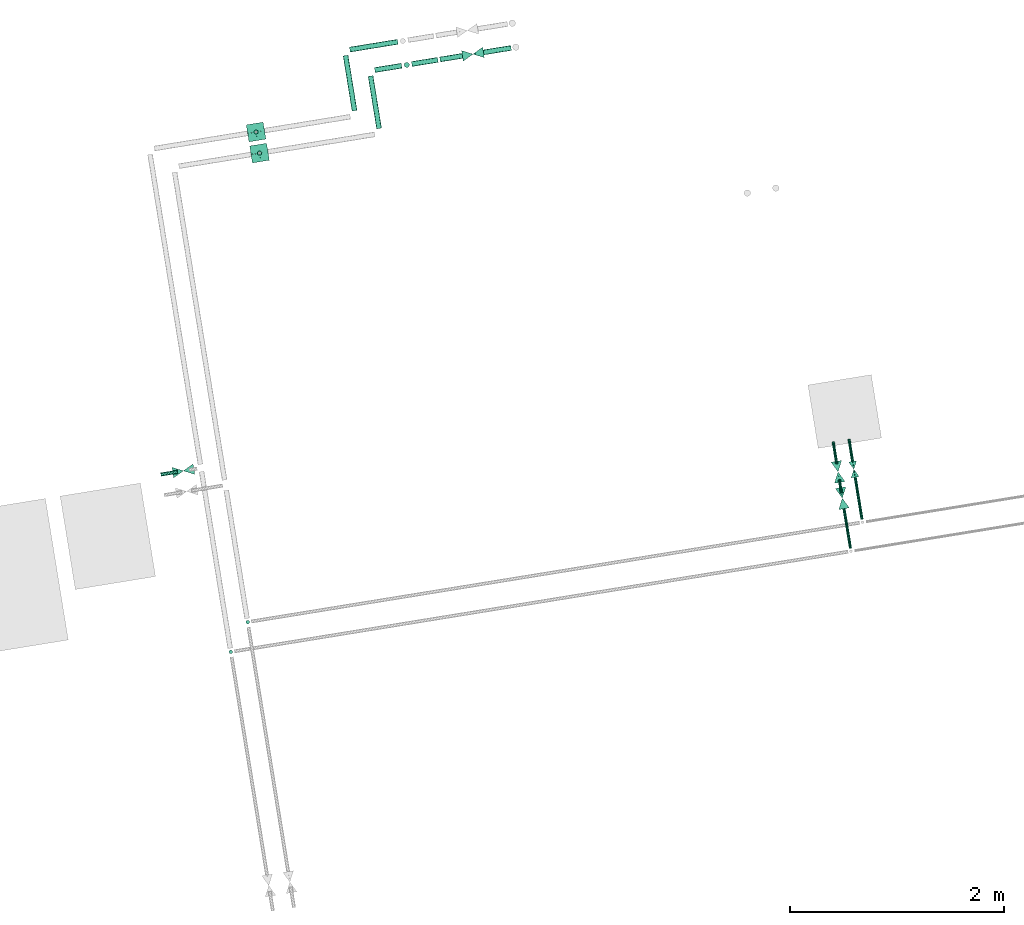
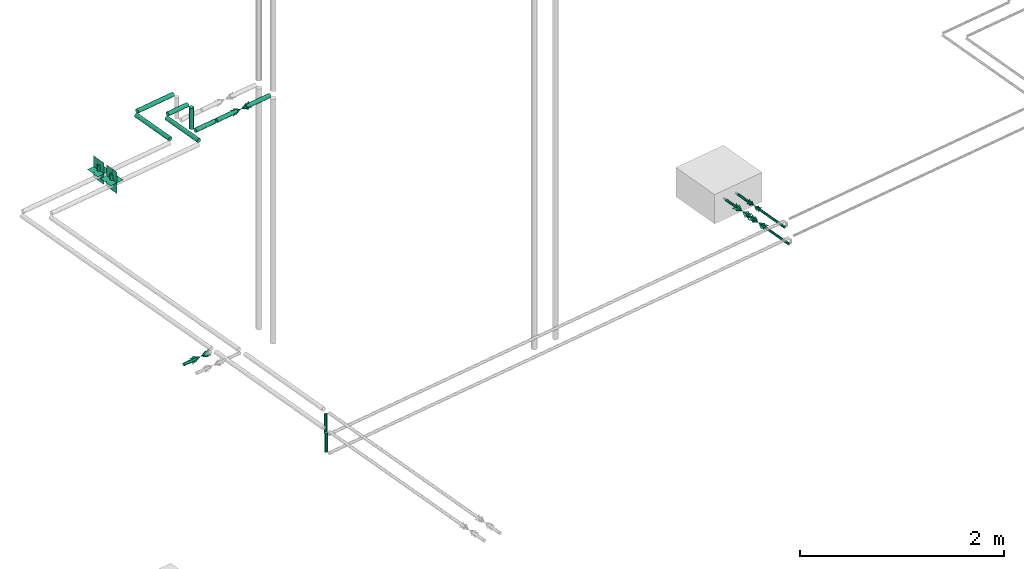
# One storey, part 2 of 8: 16 flow segments, 7 flow controllers.
"""IFC2X3 building model written with IfcOpenShell, lengths in millimetres."""

from ifc_helpers import new_model, entity, si_unit, converted_unit, derived_unit, direction, frame, frame_2d, origin, origin_with_axes, origin_2d_with_axis, place, context, subcontext, project, spatial, polyline, circle, outline, extrude, source, transform, mapped, material, material_list, type_object, element, save


model = new_model("IFC2X3")

# Units and contexts
model_context = context("Model", 3, precision=0.01, world=origin(), true_north=direction((6.12323399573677e-17, 1.0)))
plan_context = context("Plan", 3, precision=1e-05, world=origin_with_axes())
body_context = subcontext(model_context, "Body", "Model", "MODEL_VIEW")
ifc_project = project(units=[converted_unit("PLANEANGLEUNIT", "DEGREE", entity("IfcPositiveLengthMeasure", 0.0174532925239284), si_unit("PLANEANGLEUNIT", "RADIAN"), dimensions=[0, 0, 0, 0, 0, 0, 0]), si_unit("AREAUNIT", "SQUARE_METRE"), si_unit("LENGTHUNIT", "METRE", prefix="MILLI"), si_unit("MASSUNIT", "GRAM", prefix="KILO"), si_unit("POWERUNIT", "WATT"), si_unit("PRESSUREUNIT", "PASCAL", prefix="KILO"), si_unit("FORCEUNIT", "NEWTON", prefix="KILO"), si_unit("ELECTRICVOLTAGEUNIT", "VOLT"), si_unit("ELECTRICCURRENTUNIT", "AMPERE"), si_unit("THERMODYNAMICTEMPERATUREUNIT", "DEGREE_CELSIUS"), si_unit("TIMEUNIT", "SECOND"), si_unit("VOLUMEUNIT", "CUBIC_METRE"), derived_unit("LINEARVELOCITYUNIT", [(si_unit("LENGTHUNIT", "METRE"), 1), (si_unit("TIMEUNIT", "SECOND"), -1)]), derived_unit("VOLUMETRICFLOWRATEUNIT", [(si_unit("VOLUMEUNIT", "CUBIC_METRE"), 1), (si_unit("TIMEUNIT", "SECOND"), -1)]), derived_unit("THERMALTRANSMITTANCEUNIT", [(si_unit("POWERUNIT", "WATT"), 1), (si_unit("THERMODYNAMICTEMPERATUREUNIT", "KELVIN"), -1), (si_unit("AREAUNIT", "SQUARE_METRE"), -1)]), derived_unit("SOUNDPRESSUREUNIT", [(si_unit("PRESSUREUNIT", "PASCAL"), 1)])], contexts=[model_context, plan_context])

# Site, building, storey
site_placement = place(None, frame((-0.00071070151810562, 0.00438415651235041, 0.0), z_axis=(0.0, 0.0, 1.0), x_axis=(-0.160236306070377, 0.987078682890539, 0.0)))
site = spatial("IfcSite", under=ifc_project, at=site_placement, Name="Default", CompositionType="ELEMENT")
building_placement = place(site_placement, origin_with_axes())
building = spatial("IfcBuilding", under=site, at=building_placement, CompositionType="ELEMENT")
storey_placement = place(building_placement, frame((0.0, 0.0, 50999.9999999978), z_axis=(0.0, 0.0, 1.0), x_axis=(1.0, 0.0, 0.0)))
storey = spatial("IfcBuildingStorey", under=building, at=storey_placement, Name="Nivå D", CompositionType="ELEMENT", Elevation=50999.9999999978)

# Flow controllers
ifc_material_1 = material(Name="2d_hide")
valve_type_1 = type_object("IfcValveType", Name="STENGEVENTIL - MANUELL--SM06T:STENGEVENTIL - MANUELL-40-SM006T", PredefinedType="NOTDEFINED", material=ifc_material_1)
shared_shape_1 = source(origin(), body_context, "Body", "SweptSolid", [
    extrude(outline(polyline([(-52.1749194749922, -29.8142396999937), (59.6284794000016, -29.8142396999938), (-7.45355992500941, 59.6284793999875), (-52.1749194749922, -29.8142396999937)])), frame((66.6666666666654, 0.0, -0.1), z_axis=(0.0, 0.0, 1.0), x_axis=(-0.894427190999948, -0.447213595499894, 0.0)), (0.0, 0.0, 1.0), 0.2),
    extrude(outline(polyline([(-50.0, -33.3333333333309), (50.0, -33.3333333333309), (0.0, 66.6666666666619), (-50.0, -33.3333333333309)])), frame((-66.6666666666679, 0.0, -0.1), z_axis=(0.0, 0.0, 1.0), x_axis=(0.0, -1.0, 0.0)), (0.0, 0.0, 1.0), 0.2),
    extrude(outline(polyline([(-52.1749194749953, -29.8142396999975), (59.628479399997, -29.8142396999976), (-7.45355992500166, 59.6284793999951), (-52.1749194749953, -29.8142396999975)])), frame((66.6666666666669, -0.1, 0.0), z_axis=(0.0, 1.0, 0.0), x_axis=(-0.894427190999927, 0.0, 0.447213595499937)), (0.0, 0.0, 1.0), 0.2),
    extrude(outline(polyline([(-50.0, -33.3333333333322), (50.0, -33.3333333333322), (0.0, 66.6666666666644), (-50.0, -33.3333333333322)])), frame((-66.6666666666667, -0.1, 0.0), z_axis=(0.0, 1.0, 0.0), x_axis=(0.0, 0.0, 1.0)), (0.0, 0.0, 1.0), 0.2),
])
flow_controller_1_placement = place(storey_placement, frame((777524.586788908, -594269.740529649, 2949.99466916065), z_axis=(-5.97430540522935e-30, -7.55073187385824e-05, -0.999999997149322), x_axis=(5.55111512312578e-17, 0.999999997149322, -7.55073187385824e-05)))
element("IfcFlowController", 1, at=flow_controller_1_placement, inside=storey, type_object=valve_type_1, material=ifc_material_1, Name="STENGEVENTIL - MANUELL--SM06T:STENGEVENTIL - MANUELL-40-SM006T", ObjectType="STENGEVENTIL - MANUELL--SM06T:STENGEVENTIL - MANUELL-40-SM006T", context=body_context, shape_type="MappedRepresentation", body=[
    mapped(shared_shape_1, transform((0.0, 0.0, 0.0), scale=1.0)),
])
ifc_material_2 = material(Name="<Unnamed>")
valve_type_2 = type_object("IfcValveType", Name="STENGEVENTIL - MANUELL-  1-SM01T:STENGEVENTIL - MANUELL-20-SM001T", PredefinedType="NOTDEFINED", material=ifc_material_2)
shared_shape_2 = source(origin(), body_context, "Body", "SweptSolid", [
    extrude(outline(polyline([(-39.1311896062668, -22.3606797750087), (44.7213595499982, -22.3606797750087), (-5.59016994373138, 44.7213595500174), (-39.1311896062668, -22.3606797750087)])), frame((50.0, -1.07349053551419, 0.0), z_axis=(0.0, 1.0, 0.0), x_axis=(-0.894427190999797, 0.0, 0.447213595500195)), (0.0, 0.0, 1.0), 2.13989335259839),
    extrude(outline(polyline([(-37.5000000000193, -25.0), (37.5000000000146, -25.0), (0.0, 50.0), (-37.5000000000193, -25.0)])), frame((-50.0, -1.07349053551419, 0.0), z_axis=(0.0, 1.0, 0.0), x_axis=(0.0, 0.0, 1.0)), (0.0, 0.0, 1.0), 2.13989335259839),
    extrude(outline(polyline([(-37.5000000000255, -25.0), (37.5000000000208, -25.0), (0.0, 50.0), (-37.5000000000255, -25.0)])), frame((50.0, 0.0, -1.0664028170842), z_axis=(0.0, 0.0, 1.0), x_axis=(0.0, 1.0, 0.0)), (0.0, 0.0, 1.0), 2.13989335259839),
    extrude(outline(polyline([(-39.1311896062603, -22.360679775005), (44.7213595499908, -22.360679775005), (-5.59016994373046, 44.72135955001), (-39.1311896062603, -22.360679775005)])), frame((-50.0, 0.0, -1.0664028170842), z_axis=(0.0, 0.0, 1.0), x_axis=(0.894427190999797, 0.447213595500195, 0.0)), (0.0, 0.0, 1.0), 2.13989335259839),
])
flow_controller_2_placement = place(storey_placement, frame((773122.357566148, -597163.047041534, 2900.0), z_axis=(0.0, 0.0, -1.0), x_axis=(-1.0, 0.0, 0.0)))
element("IfcFlowController", 2, at=flow_controller_2_placement, inside=storey, type_object=valve_type_2, material=ifc_material_2, Name="STENGEVENTIL - MANUELL-  1-SM01T:STENGEVENTIL - MANUELL-20-SM001T", ObjectType="STENGEVENTIL - MANUELL-  1-SM01T:STENGEVENTIL - MANUELL-20-SM001T", context=body_context, shape_type="MappedRepresentation", body=[
    mapped(shared_shape_2, transform((0.0, 0.0, 0.0), scale=1.0)),
])
valve_type_3 = type_object("IfcValveType", Name="REGULERINGSVENTIL - MOTORSTYRT-  1-SB001T:REGULERINGSVENTIL - MOTORSTYRT-SB001T", PredefinedType="NOTDEFINED", material=ifc_material_1)
shared_shape_3 = source(origin(), body_context, "Body", "SweptSolid", [
    extrude(outline(polyline([(-50.0, -33.3333333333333), (50.0, -33.3333333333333), (0.0, 66.6666666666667), (-50.0, -33.3333333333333)])), frame((66.6666666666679, 0.0, -0.1), z_axis=(0.0, 0.0, 1.0), x_axis=(0.0, 1.0, 0.0)), (0.0, 0.0, 1.0), 0.2),
    extrude(outline(polyline([(-52.1749194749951, -29.8142396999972), (59.6284793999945, -29.8142396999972), (-7.4535599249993, 59.6284793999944), (-52.1749194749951, -29.8142396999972)])), frame((-66.6666666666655, 0.0, -0.1), z_axis=(0.0, 0.0, 1.0), x_axis=(0.894427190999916, 0.447213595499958, 0.0)), (0.0, 0.0, 1.0), 0.2),
    extrude(outline(polyline([(-52.1749194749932, -29.8142396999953), (59.6284793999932, -29.8142396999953), (-7.45355992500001, 59.6284793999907), (-52.1749194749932, -29.8142396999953)])), frame((66.6666666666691, -0.1, 0.0), z_axis=(0.0, 1.0, 0.0), x_axis=(-0.894427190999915, 0.0, 0.447213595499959)), (0.0, 0.0, 1.0), 0.2),
    extrude(outline(polyline([(-50.0, -33.3333333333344), (50.0, -33.3333333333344), (0.0, 66.6666666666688), (-50.0, -33.3333333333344)])), frame((-66.6666666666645, -0.1, 0.0), z_axis=(0.0, 1.0, 0.0), x_axis=(0.0, 0.0, 1.0)), (0.0, 0.0, 1.0), 0.2),
])
flow_controller_3_placement = place(storey_placement, frame((773122.357566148, -597013.047041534, 2900.0), z_axis=(0.0, 0.0, -1.0), x_axis=(-1.0, 0.0, 0.0)))
element("IfcFlowController", 3, at=flow_controller_3_placement, inside=storey, type_object=valve_type_3, material=ifc_material_1, Name="REGULERINGSVENTIL - MOTORSTYRT-  1-SB001T:REGULERINGSVENTIL - MOTORSTYRT-SB001T", ObjectType="REGULERINGSVENTIL - MOTORSTYRT-  1-SB001T:REGULERINGSVENTIL - MOTORSTYRT-SB001T", context=body_context, shape_type="MappedRepresentation", body=[
    mapped(shared_shape_3, transform((0.0, 0.0, 0.0), scale=1.0)),
])
valve_type_4 = type_object("IfcValveType", Name="REGULERINGSVENTIL - MANUELL--SV001T:REGULERINGSVENTIL - MANUELL-20-SV001T", PredefinedType="NOTDEFINED", material=ifc_material_1)
shared_shape_4 = source(origin(), body_context, "Body", "SweptSolid", [
    extrude(outline(polyline([(-52.1749194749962, -29.8142396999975), (59.6284793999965, -29.8142396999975), (-7.45355992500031, 59.628479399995), (-52.1749194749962, -29.8142396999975)])), frame((66.6666666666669, 0.0, -0.1), z_axis=(0.0, 0.0, 1.0), x_axis=(-0.894427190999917, -0.447213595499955, 0.0)), (0.0, 0.0, 1.0), 0.2),
    extrude(outline(polyline([(-50.0, -33.3333333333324), (50.0, -33.3333333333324), (0.0, 66.6666666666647), (-50.0, -33.3333333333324)])), frame((-66.6666666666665, 0.0, -0.1), z_axis=(0.0, 0.0, 1.0), x_axis=(0.0, -1.0, 0.0)), (0.0, 0.0, 1.0), 0.2),
    extrude(outline(polyline([(-52.1749194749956, -29.8142396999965), (59.6284793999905, -29.8142396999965), (-7.45355992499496, 59.628479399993), (-52.1749194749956, -29.8142396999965)])), frame((66.66666666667, -0.1, 0.0), z_axis=(0.0, 1.0, 0.0), x_axis=(-0.894427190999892, 0.0, 0.447213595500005)), (0.0, 0.0, 1.0), 0.2),
    extrude(outline(polyline([(-50.0, -33.3333333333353), (50.0, -33.3333333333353), (0.0, 66.6666666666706), (-50.0, -33.3333333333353)])), frame((-66.6666666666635, -0.1, 0.0), z_axis=(0.0, 1.0, 0.0), x_axis=(0.0, 0.0, 1.0)), (0.0, 0.0, 1.0), 0.2),
])
flow_controller_4_placement = place(storey_placement, frame((772872.974945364, -597013.047041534, 2900.0), z_axis=(0.0, 0.0, 1.0), x_axis=(-1.0, 0.0, 0.0)))
element("IfcFlowController", 4, at=flow_controller_4_placement, inside=storey, type_object=valve_type_4, material=ifc_material_1, Name="REGULERINGSVENTIL - MANUELL--SV001T:REGULERINGSVENTIL - MANUELL-20-SV001T", ObjectType="REGULERINGSVENTIL - MANUELL--SV001T:REGULERINGSVENTIL - MANUELL-20-SV001T", context=body_context, shape_type="MappedRepresentation", body=[
    mapped(shared_shape_4, transform((0.0, 0.0, 0.0), scale=1.0)),
])
valve_type_5 = type_object("IfcValveType", Name="REGULERINGSVENTIL - MANUELL--SV01T:REGULERINGSVENTIL - MANUELL-25-SV001T", PredefinedType="NOTDEFINED", material=ifc_material_1)
shared_shape_5 = source(origin(), body_context, "Body", "SweptSolid", [
    extrude(outline(polyline([(-52.1749194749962, -29.8142396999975), (59.6284793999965, -29.8142396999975), (-7.4535599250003, 59.628479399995), (-52.1749194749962, -29.8142396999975)])), frame((66.6666666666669, 0.0, -0.1), z_axis=(0.0, 0.0, 1.0), x_axis=(-0.894427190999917, -0.447213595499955, 0.0)), (0.0, 0.0, 1.0), 0.2),
    extrude(outline(polyline([(-50.0, -33.3333333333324), (50.0, -33.3333333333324), (0.0, 66.6666666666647), (-50.0, -33.3333333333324)])), frame((-66.6666666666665, 0.0, -0.1), z_axis=(0.0, 0.0, 1.0), x_axis=(0.0, -1.0, 0.0)), (0.0, 0.0, 1.0), 0.2),
    extrude(outline(polyline([(-52.1749194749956, -29.8142396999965), (59.6284793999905, -29.8142396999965), (-7.45355992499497, 59.628479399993), (-52.1749194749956, -29.8142396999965)])), frame((66.66666666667, -0.1, 0.0), z_axis=(0.0, 1.0, 0.0), x_axis=(-0.894427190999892, 0.0, 0.447213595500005)), (0.0, 0.0, 1.0), 0.2),
    extrude(outline(polyline([(-50.0, -33.3333333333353), (50.0, -33.3333333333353), (0.0, 66.6666666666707), (-50.0, -33.3333333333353)])), frame((-66.6666666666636, -0.1, 0.0), z_axis=(0.0, 1.0, 0.0), x_axis=(0.0, 0.0, 1.0)), (0.0, 0.0, 1.0), 0.2),
])
flow_controller_5_placement = place(storey_placement, frame((774112.418888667, -590972.581821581, 3300.0), z_axis=(0.0, 0.0, 1.0), x_axis=(0.0, -1.0, 0.0)))
element("IfcFlowController", 5, at=flow_controller_5_placement, inside=storey, type_object=valve_type_5, material=ifc_material_1, Name="REGULERINGSVENTIL - MANUELL--SV01T:REGULERINGSVENTIL - MANUELL-25-SV001T", ObjectType="REGULERINGSVENTIL - MANUELL--SV01T:REGULERINGSVENTIL - MANUELL-25-SV001T", context=body_context, shape_type="MappedRepresentation", body=[
    mapped(shared_shape_5, transform((0.0, 0.0, 0.0), scale=1.0)),
])
ifc_material_3 = material(Name="Metal - Caleffi - Brass")
ifc_material_list = material_list([ifc_material_1, ifc_material_3])
valve_type_6 = type_object("IfcValveType", Name="LUFTEPOTTE--:LUFTEPOTTE", PredefinedType="NOTDEFINED", material=ifc_material_list)
shared_shape_6 = source(origin(), body_context, "Body", "SweptSolid", [
    extrude(outline(polyline([(-80.4999999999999, -88.6500000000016), (80.4999999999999, -88.6500000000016), (80.4999999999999, 71.3499999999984), (0.499999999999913, 71.3499999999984), (0.499999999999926, -54.0499999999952), (-0.499999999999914, -54.0499999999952), (-0.499999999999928, 71.3499999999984), (-80.4999999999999, 71.3499999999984), (-80.4999999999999, -88.6500000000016)])), frame((0.0, 8.55000000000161, -0.1)), (0.0, 0.0, 1.0), 0.2),
    extrude(outline(polyline([(-80.5, -108.874999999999), (-0.500000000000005, -108.874999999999), (-0.500000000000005, 66.6249999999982), (0.500000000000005, 66.6249999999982), (0.500000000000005, -108.874999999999), (80.5, -108.874999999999), (80.5, 151.125000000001), (-80.5, 151.125), (-80.5, -108.874999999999)])), frame((0.0, -0.1, 21.1250000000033), z_axis=(0.0, 1.0, 0.0), x_axis=(1.0, 0.0, 0.0)), (0.0, 0.0, 1.0), 0.2),
    extrude(circle(Radius=19.84375, at=frame_2d((-2.11497486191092e-15, -1.05857627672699e-13), x_axis=(1.0, 0.0))), frame((0.0, 0.0, 0.0), z_axis=(0.0, 0.0, 1.0), x_axis=(0.0, 1.0, 0.0)), (0.0, 0.0, 1.0), 66.6750000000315),
])
for number, where, z_axis, x_axis in (
    (6, (776930.860958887, -592151.206381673, 3369.73826175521), (0.0, 0.0, 1.0), (1.0, 0.0, 0.0)),
    (7, (777130.860958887, -592151.206381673, 3369.7382617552), (0.0, 0.0, 1.0), (1.0, 0.0, 0.0)),
):
    element("IfcFlowController", number, at=place(storey_placement, frame(where, z_axis=z_axis, x_axis=x_axis)), inside=storey, type_object=valve_type_6, material=ifc_material_list, Name="LUFTEPOTTE--:LUFTEPOTTE", ObjectType="LUFTEPOTTE--:LUFTEPOTTE", context=body_context, shape_type="MappedRepresentation", body=[
        mapped(shared_shape_6, transform((0.0, 0.0, 0.0), scale=1.0)),
    ])

# Flow segments
pipe_segment_type = type_object("IfcPipeSegmentType", Name="Pipe Types:Stålrør syrefast AISI 316", PredefinedType="NOTDEFINED")
flow_segment_1_placement = place(storey_placement, origin_with_axes())
element("IfcFlowSegment", 8, at=flow_segment_1_placement, inside=storey, type_object=pipe_segment_type, Name="Pipe Types:Stålrør syrefast AISI 316", ObjectType="Pipe Types:Stålrør syrefast AISI 316", context=body_context, shape_type="SweptSolid", body=[
    extrude(circle(Radius=24.1499996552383, at=origin_2d_with_axis()), frame((777524.586788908, -594630.780003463, 2949.99919959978), z_axis=(0.0, 1.0, 0.0), x_axis=(1.0, 0.0, 0.0)), (0.0, 0.0, 1.0), 301.039473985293),
])
flow_segment_2_placement = place(storey_placement, origin_with_axes())
element("IfcFlowSegment", 9, at=flow_segment_2_placement, inside=storey, type_object=pipe_segment_type, Name="Pipe Types:Stålrør syrefast AISI 316", ObjectType="Pipe Types:Stålrør syrefast AISI 316", context=body_context, shape_type="SweptSolid", body=[
    extrude(circle(Radius=24.1499996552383, at=frame_2d((0.0, -5.2329211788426e-15), x_axis=(1.0, 0.0))), frame((777524.586788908, -593957.133790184, 2949.97106506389), z_axis=(0.0, -0.999999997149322, 7.55073186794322e-05), x_axis=(1.0, 0.0, 0.0)), (0.0, 0.0, 1.0), 252.606740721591),
])
flow_segment_3_placement = place(storey_placement, origin_with_axes())
element("IfcFlowSegment", 10, at=flow_segment_3_placement, inside=storey, type_object=pipe_segment_type, Name="Pipe Types:Stålrør syrefast AISI 316", ObjectType="Pipe Types:Stålrør syrefast AISI 316", context=body_context, shape_type="SweptSolid", body=[
    extrude(circle(Radius=24.1499996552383, at=frame_2d((0.0, -3.16404443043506e-15), x_axis=(1.0, 0.0))), frame((777750.860958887, -593594.080131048, 3300.02231400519), z_axis=(0.0, 1.0, -4.56549034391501e-05), x_axis=(-1.0, 0.0, 0.0)), (0.0, 0.0, 1.0), 453.537776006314),
])
flow_segment_4_placement = place(storey_placement, origin_with_axes())
element("IfcFlowSegment", 11, at=flow_segment_4_placement, inside=storey, type_object=pipe_segment_type, Name="Pipe Types:Stålrør syrefast AISI 316", ObjectType="Pipe Types:Stålrør syrefast AISI 316", context=body_context, shape_type="SweptSolid", body=[
    extrude(circle(Radius=24.1499996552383, at=frame_2d((0.0, -1.73258740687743e-11), x_axis=(1.0, 0.0))), frame((777179.260958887, -593092.142355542, 3300.0), z_axis=(1.0, 0.0, 0.0), x_axis=(0.0, 1.0, 0.0)), (0.0, 0.0, 1.0), 523.20000000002),
])
flow_segment_5_placement = place(storey_placement, origin_with_axes())
element("IfcFlowSegment", 12, at=flow_segment_5_placement, inside=storey, type_object=pipe_segment_type, Name="Pipe Types:Stålrør syrefast AISI 316", ObjectType="Pipe Types:Stålrør syrefast AISI 316", context=body_context, shape_type="SweptSolid", body=[
    extrude(circle(Radius=24.1499996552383, at=origin_2d_with_axis()), frame((777524.586788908, -593594.07826839, 3300.03382019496), z_axis=(0.0, 0.999999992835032, -0.000119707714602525), x_axis=(-1.0, 0.0, 0.0)), (0.0, 0.0, 1.0), 253.535915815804),
])
flow_segment_6_placement = place(storey_placement, origin_with_axes())
element("IfcFlowSegment", 13, at=flow_segment_6_placement, inside=storey, type_object=pipe_segment_type, Name="Pipe Types:Stålrør syrefast AISI 316", ObjectType="Pipe Types:Stålrør syrefast AISI 316", context=body_context, shape_type="SweptSolid", body=[
    extrude(circle(Radius=24.1499996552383, at=frame_2d((0.0, 1.73258740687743e-11), x_axis=(1.0, 0.0))), frame((776979.260958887, -593292.142354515, 3300.0), z_axis=(1.0, 0.0, 0.0), x_axis=(0.0, 1.0, 0.0)), (0.0, 0.0, 1.0), 496.925830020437),
])
flow_segment_7_placement = place(storey_placement, origin_with_axes())
element("IfcFlowSegment", 14, at=flow_segment_7_placement, inside=storey, type_object=pipe_segment_type, Name="Pipe Types:Stålrør syrefast AISI 316", ObjectType="Pipe Types:Stålrør syrefast AISI 316", context=body_context, shape_type="SweptSolid", body=[
    extrude(circle(Radius=24.1499996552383, at=frame_2d((0.0, 8.66293697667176e-12), x_axis=(1.0, 0.0))), frame((777524.586788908, -593937.133790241, 2949.96955491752), z_axis=(0.0, 0.999999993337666, -0.00011543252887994), x_axis=(1.0, 0.0, 0.0)), (0.0, 0.0, 1.0), 246.248398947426),
])
flow_segment_8_placement = place(storey_placement, origin_with_axes())
element("IfcFlowSegment", 15, at=flow_segment_8_placement, inside=storey, type_object=pipe_segment_type, Name="Pipe Types:Stålrør syrefast AISI 316", ObjectType="Pipe Types:Stålrør syrefast AISI 316", context=body_context, shape_type="SweptSolid", body=[
    extrude(circle(Radius=24.1499996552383, at=origin_2d_with_axis()), frame((777524.586788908, -593642.48173838, 2998.34112970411), z_axis=(0.0, 0.0, 1.0), x_axis=(-1.0, 0.0, 0.0)), (0.0, 0.0, 1.0), 253.292690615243),
])
flow_segment_9_placement = place(storey_placement, origin_with_axes())
element("IfcFlowSegment", 16, at=flow_segment_9_placement, inside=storey, type_object=pipe_segment_type, Name="Pipe Types:Stålrør syrefast AISI 316", ObjectType="Pipe Types:Stålrør syrefast AISI 316", context=body_context, shape_type="SweptSolid", body=[
    extrude(circle(Radius=16.8500004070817, at=origin_2d_with_axis()), frame((772370.699644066, -591139.456821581, 3033.8)), (0.0, 0.0, 1.0), 229.9),
])
flow_segment_10_placement = place(storey_placement, origin_with_axes())
element("IfcFlowSegment", 17, at=flow_segment_10_placement, inside=storey, type_object=pipe_segment_type, Name="Pipe Types:Stålrør syrefast AISI 316", ObjectType="Pipe Types:Stålrør syrefast AISI 316", context=body_context, shape_type="SweptSolid", body=[
    extrude(circle(Radius=16.8500004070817, at=origin_2d_with_axis()), frame((772620.737804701, -591339.456821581, 3033.8)), (0.0, 0.0, 1.0), 229.9),
])
flow_segment_11_placement = place(storey_placement, origin_with_axes())
element("IfcFlowSegment", 18, at=flow_segment_11_placement, inside=storey, type_object=pipe_segment_type, Name="Pipe Types:Stålrør syrefast AISI 316", ObjectType="Pipe Types:Stålrør syrefast AISI 316", context=body_context, shape_type="SweptSolid", body=[
    extrude(circle(Radius=13.3500004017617, at=origin_2d_with_axis()), frame((773197.357566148, -597013.047041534, 2900.0), z_axis=(1.0, 0.0, 0.0), x_axis=(0.0, -1.0, 0.0)), (0.0, 0.0, 1.0), 211.198937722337),
])
flow_segment_12_placement = place(storey_placement, origin_with_axes())
element("IfcFlowSegment", 19, at=flow_segment_12_placement, inside=storey, type_object=pipe_segment_type, Name="Pipe Types:Stålrør syrefast AISI 316", ObjectType="Pipe Types:Stålrør syrefast AISI 316", context=body_context, shape_type="SweptSolid", body=[
    extrude(circle(Radius=13.3500004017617, at=origin_2d_with_axis()), frame((773151.357566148, -597163.047041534, 2900.0), z_axis=(1.0, 0.0, 0.0), x_axis=(0.0, -1.0, 0.0)), (0.0, 0.0, 1.0), 257.198937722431),
])
flow_segment_13_placement = place(storey_placement, origin_with_axes())
element("IfcFlowSegment", 20, at=flow_segment_13_placement, inside=storey, type_object=pipe_segment_type, Name="Pipe Types:Stålrør syrefast AISI 316", ObjectType="Pipe Types:Stålrør syrefast AISI 316", context=body_context, shape_type="SweptSolid", body=[
    extrude(circle(Radius=13.3500004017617, at=origin_2d_with_axis()), frame((772647.537804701, -597163.047041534, 2900.0), z_axis=(1.0, 0.0, 0.0), x_axis=(0.0, -1.0, 0.0)), (0.0, 0.0, 1.0), 445.819761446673),
])
flow_segment_14_placement = place(storey_placement, origin_with_axes())
element("IfcFlowSegment", 21, at=flow_segment_14_placement, inside=storey, type_object=pipe_segment_type, Name="Pipe Types:Stålrør syrefast AISI 316", ObjectType="Pipe Types:Stålrør syrefast AISI 316", context=body_context, shape_type="SweptSolid", body=[
    extrude(circle(Radius=13.3500004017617, at=origin_2d_with_axis()), frame((772921.474945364, -597013.047041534, 2900.0), z_axis=(1.0, 0.0, 0.0), x_axis=(0.0, -1.0, 0.0)), (0.0, 0.0, 1.0), 125.882620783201),
])
flow_segment_15_placement = place(storey_placement, origin_with_axes())
element("IfcFlowSegment", 22, at=flow_segment_15_placement, inside=storey, type_object=pipe_segment_type, Name="Pipe Types:Stålrør syrefast AISI 316", ObjectType="Pipe Types:Stålrør syrefast AISI 316", context=body_context, shape_type="SweptSolid", body=[
    extrude(circle(Radius=13.3500004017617, at=origin_2d_with_axis()), frame((772397.499644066, -597013.047041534, 2900.0), z_axis=(1.0, 0.0, 0.0), x_axis=(0.0, -1.0, 0.0)), (0.0, 0.0, 1.0), 426.975301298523),
])
flow_segment_16_placement = place(storey_placement, origin_with_axes())
element("IfcFlowSegment", 23, at=flow_segment_16_placement, inside=storey, type_object=pipe_segment_type, Name="Pipe Types:Stålrør syrefast AISI 316", ObjectType="Pipe Types:Stålrør syrefast AISI 316", context=body_context, shape_type="SweptSolid", body=[
    extrude(circle(Radius=16.8500004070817, at=origin_2d_with_axis()), frame((774112.418888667, -590917.581821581, 3300.0), z_axis=(0.0, 1.0, 0.0), x_axis=(1.0, 0.0, 0.0)), (0.0, 0.0, 1.0), 158.125000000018),
])

save(model, "model.ifc")
